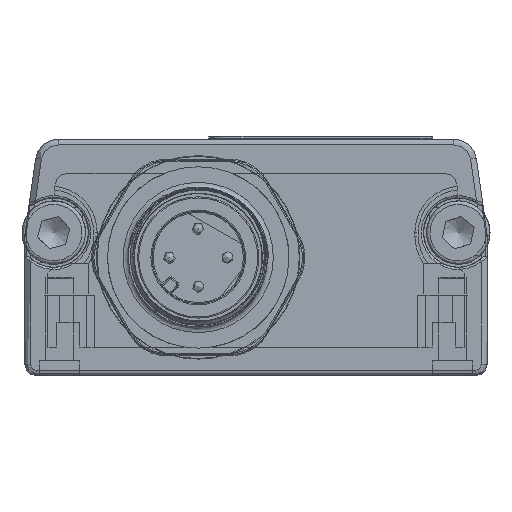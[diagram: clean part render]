
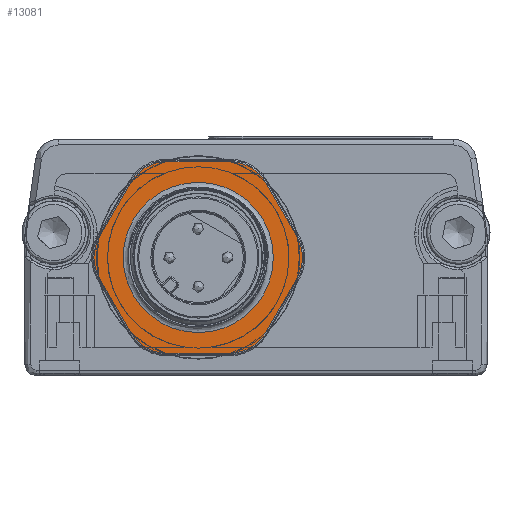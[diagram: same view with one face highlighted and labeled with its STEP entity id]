
A CAD part, front view. The second image highlights one B-rep face of the part: STEP entity #13081.
In plain terms, the highlighted planar face has unit normal (0, -1, 0).
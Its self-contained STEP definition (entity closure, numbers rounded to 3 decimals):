
#165=FACE_BOUND('',#2263,.T.);
#548=CIRCLE('',#13911,6.5);
#549=CIRCLE('',#13912,6.5);
#585=CIRCLE('',#13971,3.6);
#590=CIRCLE('',#13978,3.6);
#593=CIRCLE('',#13983,3.6);
#596=CIRCLE('',#13988,3.6);
#600=CIRCLE('',#13994,3.6);
#604=CIRCLE('',#14000,3.6);
#1022=PLANE('',#14007);
#1541=FACE_OUTER_BOUND('',#2262,.T.);
#2262=EDGE_LOOP('',(#9846,#9847,#9848,#9849,#9850,#9851,#9852,#9853,#9854,
#9855,#9856,#9857));
#2263=EDGE_LOOP('',(#9858,#9859));
#3347=LINE('',#27614,#4376);
#3348=LINE('',#27622,#4377);
#3349=LINE('',#27630,#4378);
#3350=LINE('',#27638,#4379);
#3352=LINE('',#27650,#4381);
#3353=LINE('',#27658,#4382);
#4376=VECTOR('',#16147,10.);
#4377=VECTOR('',#16158,10.);
#4378=VECTOR('',#16169,10.);
#4379=VECTOR('',#16180,10.);
#4381=VECTOR('',#16194,10.);
#4382=VECTOR('',#16205,10.);
#5571=VERTEX_POINT('',#25958);
#5572=VERTEX_POINT('',#25960);
#5620=VERTEX_POINT('',#27603);
#5621=VERTEX_POINT('',#27605);
#5623=VERTEX_POINT('',#27611);
#5624=VERTEX_POINT('',#27616);
#5625=VERTEX_POINT('',#27620);
#5626=VERTEX_POINT('',#27624);
#5627=VERTEX_POINT('',#27628);
#5628=VERTEX_POINT('',#27632);
#5629=VERTEX_POINT('',#27636);
#5630=VERTEX_POINT('',#27640);
#5632=VERTEX_POINT('',#27646);
#5634=VERTEX_POINT('',#27652);
#7049=EDGE_CURVE('',#5571,#5572,#548,.T.);
#7050=EDGE_CURVE('',#5572,#5571,#549,.T.);
#7131=EDGE_CURVE('',#5620,#5621,#585,.T.);
#7136=EDGE_CURVE('',#5621,#5623,#3347,.T.);
#7138=EDGE_CURVE('',#5623,#5624,#590,.T.);
#7140=EDGE_CURVE('',#5624,#5625,#3348,.T.);
#7142=EDGE_CURVE('',#5625,#5626,#593,.T.);
#7144=EDGE_CURVE('',#5626,#5627,#3349,.T.);
#7146=EDGE_CURVE('',#5627,#5628,#596,.T.);
#7148=EDGE_CURVE('',#5628,#5629,#3350,.T.);
#7151=EDGE_CURVE('',#5629,#5630,#600,.T.);
#7154=EDGE_CURVE('',#5630,#5632,#3352,.T.);
#7157=EDGE_CURVE('',#5632,#5634,#604,.T.);
#7158=EDGE_CURVE('',#5634,#5620,#3353,.T.);
#9846=ORIENTED_EDGE('',*,*,#7131,.F.);
#9847=ORIENTED_EDGE('',*,*,#7158,.F.);
#9848=ORIENTED_EDGE('',*,*,#7157,.F.);
#9849=ORIENTED_EDGE('',*,*,#7154,.F.);
#9850=ORIENTED_EDGE('',*,*,#7151,.F.);
#9851=ORIENTED_EDGE('',*,*,#7148,.F.);
#9852=ORIENTED_EDGE('',*,*,#7146,.F.);
#9853=ORIENTED_EDGE('',*,*,#7144,.F.);
#9854=ORIENTED_EDGE('',*,*,#7142,.F.);
#9855=ORIENTED_EDGE('',*,*,#7140,.F.);
#9856=ORIENTED_EDGE('',*,*,#7138,.F.);
#9857=ORIENTED_EDGE('',*,*,#7136,.F.);
#9858=ORIENTED_EDGE('',*,*,#7050,.F.);
#9859=ORIENTED_EDGE('',*,*,#7049,.F.);
#13081=ADVANCED_FACE('',(#1541,#165),#1022,.T.);
#13911=AXIS2_PLACEMENT_3D('',#25961,#15984,#15985);
#13912=AXIS2_PLACEMENT_3D('',#25962,#15986,#15987);
#13971=AXIS2_PLACEMENT_3D('',#27606,#16136,#16137);
#13978=AXIS2_PLACEMENT_3D('',#27618,#16152,#16153);
#13983=AXIS2_PLACEMENT_3D('',#27626,#16163,#16164);
#13988=AXIS2_PLACEMENT_3D('',#27634,#16174,#16175);
#13994=AXIS2_PLACEMENT_3D('',#27644,#16187,#16188);
#14000=AXIS2_PLACEMENT_3D('',#27656,#16201,#16202);
#14007=AXIS2_PLACEMENT_3D('',#27670,#16222,#16223);
#15984=DIRECTION('center_axis',(0.,-1.,0.));
#15985=DIRECTION('ref_axis',(0.,0.,
1.));
#15986=DIRECTION('center_axis',(0.,-1.,0.));
#15987=DIRECTION('ref_axis',(0.,0.,
1.));
#16136=DIRECTION('center_axis',(0.,1.,0.));
#16137=DIRECTION('ref_axis',(-0.5,0.,-0.866));
#16147=DIRECTION('',(-0.5,0.,0.866));
#16152=DIRECTION('center_axis',(0.,1.,0.));
#16153=DIRECTION('ref_axis',(-1.,0.,0.));
#16158=DIRECTION('',(0.5,0.,0.866));
#16163=DIRECTION('center_axis',(0.,1.,0.));
#16164=DIRECTION('ref_axis',(-0.5,0.,0.866));
#16169=DIRECTION('',(1.,0.,0.));
#16174=DIRECTION('center_axis',(0.,1.,0.));
#16175=DIRECTION('ref_axis',(0.5,0.,0.866));
#16180=DIRECTION('',(0.5,0.,-0.866));
#16187=DIRECTION('center_axis',(0.,1.,0.));
#16188=DIRECTION('ref_axis',(1.,0.,0.));
#16194=DIRECTION('',(-0.5,0.,-0.866));
#16201=DIRECTION('center_axis',(0.,1.,0.));
#16202=DIRECTION('ref_axis',(0.5,0.,-0.866));
#16205=DIRECTION('',(-1.,0.,0.));
#16222=DIRECTION('center_axis',(0.,-1.,0.));
#16223=DIRECTION('ref_axis',(-1.,0.,0.));
#25958=CARTESIAN_POINT('',(-50.215,-12.9,18.629));
#25960=CARTESIAN_POINT('',(-43.715,-12.9,12.129));
#25961=CARTESIAN_POINT('Origin',(-43.715,-12.9,18.629));
#25962=CARTESIAN_POINT('Origin',(-43.715,-12.9,18.629));
#27603=CARTESIAN_POINT('',(-46.428,-12.9,10.329));
#27605=CARTESIAN_POINT('',(-49.546,-12.9,12.129));
#27606=CARTESIAN_POINT('Origin',(-46.428,-12.9,13.929));
#27611=CARTESIAN_POINT('',(-52.26,-12.9,16.829));
#27614=CARTESIAN_POINT('',(-52.13,-12.9,16.604));
#27616=CARTESIAN_POINT('',(-52.26,-12.9,20.429));
#27618=CARTESIAN_POINT('Origin',(-49.142,-12.9,18.629));
#27620=CARTESIAN_POINT('',(-49.546,-12.9,25.129));
#27622=CARTESIAN_POINT('',(-49.676,-12.9,24.904));
#27624=CARTESIAN_POINT('',(-46.428,-12.9,26.929));
#27626=CARTESIAN_POINT('Origin',(-46.428,-12.9,23.329));
#27628=CARTESIAN_POINT('',(-41.001,-12.9,26.929));
#27630=CARTESIAN_POINT('',(-41.261,-12.9,26.929));
#27632=CARTESIAN_POINT('',(-37.884,-12.9,25.129));
#27634=CARTESIAN_POINT('Origin',(-41.001,-12.9,23.329));
#27636=CARTESIAN_POINT('',(-35.17,-12.9,20.429));
#27638=CARTESIAN_POINT('',(-35.3,-12.9,20.654));
#27640=CARTESIAN_POINT('',(-35.17,-12.9,16.829));
#27644=CARTESIAN_POINT('Origin',(-38.288,-12.9,18.629));
#27646=CARTESIAN_POINT('',(-37.884,-12.9,12.129));
#27650=CARTESIAN_POINT('',(-37.754,-12.9,12.354));
#27652=CARTESIAN_POINT('',(-41.001,-12.9,10.329));
#27656=CARTESIAN_POINT('Origin',(-41.001,-12.9,13.929));
#27658=CARTESIAN_POINT('',(-46.169,-12.9,10.329));
#27670=CARTESIAN_POINT('Origin',(-43.715,-12.9,18.629));
